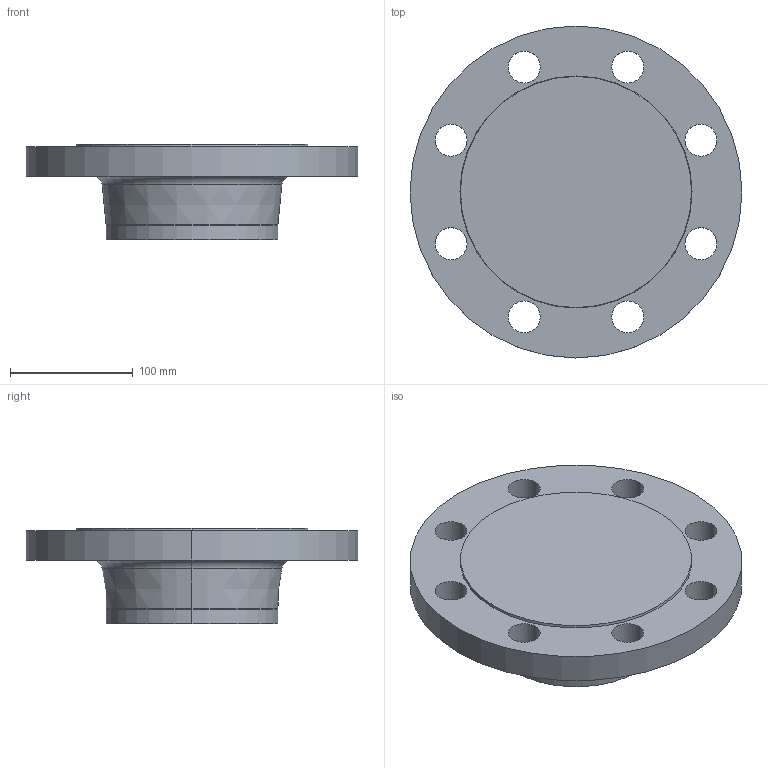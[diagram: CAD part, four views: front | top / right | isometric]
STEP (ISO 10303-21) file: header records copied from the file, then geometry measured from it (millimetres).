
FILE_DESCRIPTION (( 'STEP AP214' ), '1' );
FILE_NAME ('PN40 DN125 Type 21(ii) - Type B Face.STEP', '2019-01-02T01:14:54', ( '' ), ( '' ), 'SwSTEP 2.0', 'SolidWorks 2019', '' );
FILE_SCHEMA (( 'AUTOMOTIVE_DESIGN' ));
Length unit declared in the file: millimetre
Products named in the file (1): PN40 DN125 Type 21(ii) - Type B Face
Bounding box: 270 x 270 x 78 mm (x, y, z)
Volume: 2164631.6 mm3; surface area: 163447.9 mm2
Topology: 1 solids, 1 shells, 32 faces, 78 edges, 50 vertices
Faces by surface type: cylinder 20, torus 4, cone 4, plane 4
Entity records: 1034 total; most frequent: DIRECTION 198, CARTESIAN_POINT 161, ORIENTED_EDGE 156, AXIS2_PLACEMENT_3D 87, EDGE_CURVE 78, CIRCLE 54, VERTEX_POINT 50, EDGE_LOOP 50
